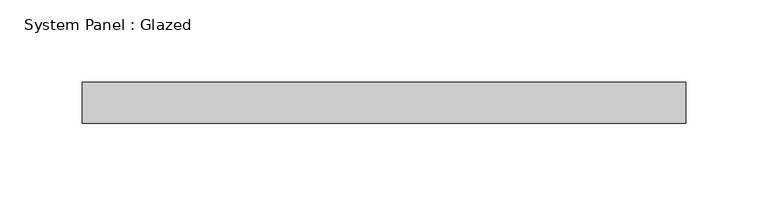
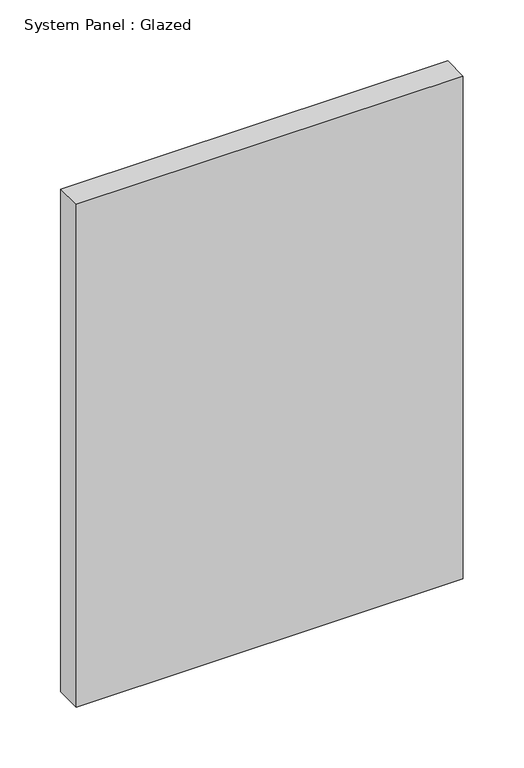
"""IFC4 building model written with IfcOpenShell, lengths in millimetres: plate geometry, System Panel : Glazed."""

from ifc_helpers import new_model, si_unit, origin, origin_with_axes, place, context, project, spatial, polyline, outline, extrude, source, transform, mapped, element, save


def system_panel_glazed_63dc7568(model_context):
    return source(origin(), model_context, "Body", "SweptSolid", [
        extrude(outline(polyline([(183.5786901, -12.5), (-183.5786901, -12.5), (-183.5786901, 12.5), (183.5786901, 12.5), (183.5786901, -12.5)])), origin_with_axes(), (0.0, 0.0, 1.0), 504.1947054),
    ])


if __name__ == "__main__":
    model = new_model("IFC4")
    model_context = context("Model", 3, world=origin())
    ifc_project = project(units=[si_unit("LENGTHUNIT", "METRE", prefix="MILLI")], contexts=[model_context])
    site = spatial("IfcSite", under=ifc_project)
    building = spatial("IfcBuilding", under=site)
    placement = place(None, origin())
    system_panel_glazed_shape = system_panel_glazed_63dc7568(model_context)
    element("IfcPlate", 1, ObjectType="System Panel : Glazed", at=placement, inside=building, context=model_context, shape_type="MappedRepresentation", body=[
        mapped(system_panel_glazed_shape, transform((0.0, 0.0, 0.0), x_axis=(1.0, 0.0, 0.0), y_axis=(0.0, 1.0, 0.0), z_axis=(0.0, 0.0, 1.0))),
    ])
    save(model, "model.ifc")
